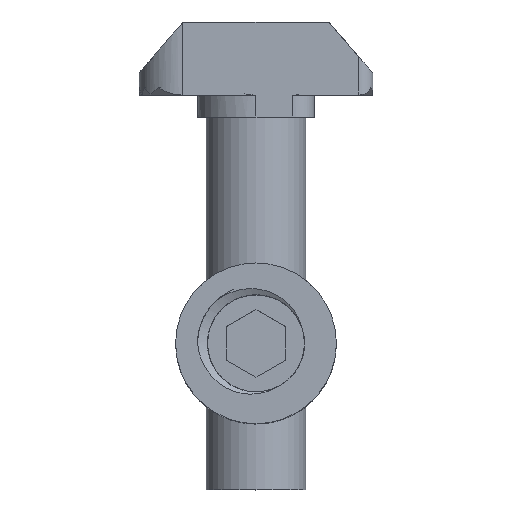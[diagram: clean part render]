
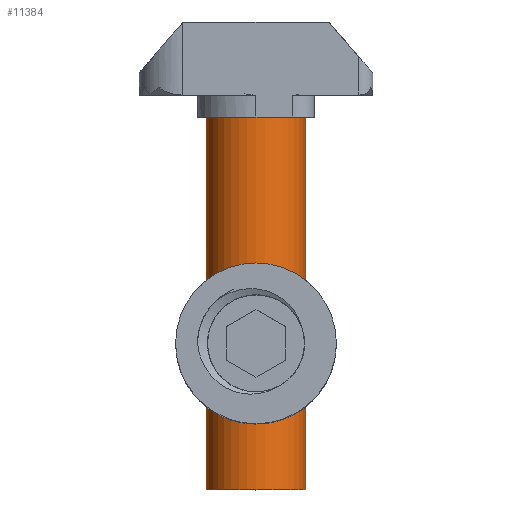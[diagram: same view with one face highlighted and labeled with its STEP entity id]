
A CAD part, top view. The second image highlights one B-rep face of the part: STEP entity #11384.
In plain terms, the highlighted cylindrical face has radius 3.4 mm (diameter 6.8 mm), a partial arc.
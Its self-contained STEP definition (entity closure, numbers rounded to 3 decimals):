
#67 = CARTESIAN_POINT ( 'NONE',  ( 3.378, 18.235, 0.39 ) ) ;
#167 = CARTESIAN_POINT ( 'NONE',  ( 3.209, 17., 1.123 ) ) ;
#195 = VERTEX_POINT ( 'NONE', #167 ) ;
#602 = VECTOR ( 'NONE', #2665, 1000. ) ;
#848 = CARTESIAN_POINT ( 'NONE',  ( 3.209, 17., 1.123 ) ) ;
#879 = CARTESIAN_POINT ( 'NONE',  ( 3.251, 17.625, 0.997 ) ) ;
#992 = CARTESIAN_POINT ( 'NONE',  ( 3.209, 17.161, 1.123 ) ) ;
#1163 = ORIENTED_EDGE ( 'NONE', *, *, #6545, .T. ) ;
#1270 = VECTOR ( 'NONE', #6412, 1000. ) ;
#1346 = CARTESIAN_POINT ( 'NONE',  ( 3.349, 15.878, 0.603 ) ) ;
#1465 = AXIS2_PLACEMENT_3D ( 'NONE', #3616, #10849, #9920 ) ;
#1648 = VERTEX_POINT ( 'NONE', #11129 ) ;
#1671 = VECTOR ( 'NONE', #11348, 1000. ) ;
#1967 = CIRCLE ( 'NONE', #4166, 3.4 ) ;
#1990 = DIRECTION ( 'NONE',  ( 0., 1., 0. ) ) ;
#2055 = ORIENTED_EDGE ( 'NONE', *, *, #8866, .T. ) ;
#2092 = CARTESIAN_POINT ( 'NONE',  ( 3.4, 15.686, 0. ) ) ;
#2261 = CARTESIAN_POINT ( 'NONE',  ( 3.274, 16.234, 0.922 ) ) ;
#2305 = CARTESIAN_POINT ( 'NONE',  ( 3.4, 0., 0. ) ) ;
#2356 = B_SPLINE_CURVE_WITH_KNOTS ( 'NONE', 3,
 ( #2092, #6701, #5813, #1346, #3893, #2261, #8390, #8518, #9397, #3027 ),
 .UNSPECIFIED., .F., .F.,
 ( 4, 2, 2, 2, 4 ),
 ( 0., 0.001, 0.001, 0.002, 0.002 ),
 .UNSPECIFIED. ) ;
#2432 = EDGE_CURVE ( 'NONE', #1648, #10004, #10855, .T. ) ;
#2563 = CARTESIAN_POINT ( 'NONE',  ( 3.4, 18.314, 0. ) ) ;
#2633 = ORIENTED_EDGE ( 'NONE', *, *, #10483, .T. ) ;
#2665 = DIRECTION ( 'NONE',  ( 0., -1., 0. ) ) ;
#2671 = EDGE_CURVE ( 'NONE', #6660, #2858, #11559, .T. ) ;
#2858 = VERTEX_POINT ( 'NONE', #2305 ) ;
#2895 = ORIENTED_EDGE ( 'NONE', *, *, #8239, .F. ) ;
#3027 = CARTESIAN_POINT ( 'NONE',  ( 3.209, 17., 1.123 ) ) ;
#3616 = CARTESIAN_POINT ( 'NONE',  ( 0., 25.5, 0. ) ) ;
#3893 = CARTESIAN_POINT ( 'NONE',  ( 3.323, 15.985, 0.725 ) ) ;
#4026 = VERTEX_POINT ( 'NONE', #10749 ) ;
#4130 = ORIENTED_EDGE ( 'NONE', *, *, #6195, .T. ) ;
#4137 = CARTESIAN_POINT ( 'NONE',  ( 3.4, 15.686, 0. ) ) ;
#4166 = AXIS2_PLACEMENT_3D ( 'NONE', #9377, #10305, #9505 ) ;
#4407 = CARTESIAN_POINT ( 'NONE',  ( 3.4, 25.5, 0. ) ) ;
#4558 = CARTESIAN_POINT ( 'NONE',  ( 3.218, 17.32, 1.098 ) ) ;
#4693 = EDGE_LOOP ( 'NONE', ( #9707, #2055, #2633, #5085, #1163, #4130, #2895 ) ) ;
#5085 = ORIENTED_EDGE ( 'NONE', *, *, #2671, .F. ) ;
#5121 = VERTEX_POINT ( 'NONE', #2563 ) ;
#5813 = CARTESIAN_POINT ( 'NONE',  ( 3.388, 15.728, 0.321 ) ) ;
#6047 = LINE ( 'NONE', #8019, #1270 ) ;
#6195 = EDGE_CURVE ( 'NONE', #195, #5121, #6833, .T. ) ;
#6412 = DIRECTION ( 'NONE',  ( 0., -1., 0. ) ) ;
#6545 = EDGE_CURVE ( 'NONE', #6660, #195, #2356, .T. ) ;
#6660 = VERTEX_POINT ( 'NONE', #4137 ) ;
#6701 = CARTESIAN_POINT ( 'NONE',  ( 3.4, 15.686, 0.161 ) ) ;
#6833 = B_SPLINE_CURVE_WITH_KNOTS ( 'NONE', 3,
 ( #848, #992, #4558, #879, #9808, #8975, #10778, #67, #8034, #7062, #11529, #7103 ),
 .UNSPECIFIED., .F., .F.,
 ( 4, 2, 2, 2, 2, 4 ),
 ( 0.002, 0.003, 0.003, 0.004, 0.004, 0.004 ),
 .UNSPECIFIED. ) ;
#6868 = CYLINDRICAL_SURFACE ( 'NONE', #1465, 3.4 ) ;
#7012 = AXIS2_PLACEMENT_3D ( 'NONE', #8367, #1990, #8406 ) ;
#7062 = CARTESIAN_POINT ( 'NONE',  ( 3.397, 18.304, 0.162 ) ) ;
#7103 = CARTESIAN_POINT ( 'NONE',  ( 3.4, 18.314, 0. ) ) ;
#8019 = CARTESIAN_POINT ( 'NONE',  ( -3.4, 25.5, 0. ) ) ;
#8034 = CARTESIAN_POINT ( 'NONE',  ( 3.386, 18.264, 0.316 ) ) ;
#8239 = EDGE_CURVE ( 'NONE', #10004, #5121, #8857, .T. ) ;
#8367 = CARTESIAN_POINT ( 'NONE',  ( 0., 25.5, 0. ) ) ;
#8390 = CARTESIAN_POINT ( 'NONE',  ( 3.251, 16.376, 0.997 ) ) ;
#8406 = DIRECTION ( 'NONE',  ( -1., 0., 0. ) ) ;
#8518 = CARTESIAN_POINT ( 'NONE',  ( 3.218, 16.68, 1.098 ) ) ;
#8857 = LINE ( 'NONE', #4407, #602 ) ;
#8866 = EDGE_CURVE ( 'NONE', #1648, #4026, #6047, .T. ) ;
#8975 = CARTESIAN_POINT ( 'NONE',  ( 3.323, 18.016, 0.724 ) ) ;
#9377 = CARTESIAN_POINT ( 'NONE',  ( 0., 0., 0. ) ) ;
#9397 = CARTESIAN_POINT ( 'NONE',  ( 3.209, 16.839, 1.123 ) ) ;
#9505 = DIRECTION ( 'NONE',  ( -1., 0., 0. ) ) ;
#9524 = FACE_OUTER_BOUND ( 'NONE', #4693, .T. ) ;
#9707 = ORIENTED_EDGE ( 'NONE', *, *, #2432, .F. ) ;
#9808 = CARTESIAN_POINT ( 'NONE',  ( 3.274, 17.766, 0.922 ) ) ;
#9920 = DIRECTION ( 'NONE',  ( 1., 0., 0. ) ) ;
#10004 = VERTEX_POINT ( 'NONE', #10082 ) ;
#10082 = CARTESIAN_POINT ( 'NONE',  ( 3.4, 25.5, 0. ) ) ;
#10305 = DIRECTION ( 'NONE',  ( 0., 1., 0. ) ) ;
#10455 = CARTESIAN_POINT ( 'NONE',  ( 3.4, 25.5, 0. ) ) ;
#10483 = EDGE_CURVE ( 'NONE', #4026, #2858, #1967, .T. ) ;
#10749 = CARTESIAN_POINT ( 'NONE',  ( -3.4, 0., 0. ) ) ;
#10778 = CARTESIAN_POINT ( 'NONE',  ( 3.349, 18.122, 0.602 ) ) ;
#10849 = DIRECTION ( 'NONE',  ( 0., -1., 0. ) ) ;
#10855 = CIRCLE ( 'NONE', #7012, 3.4 ) ;
#11129 = CARTESIAN_POINT ( 'NONE',  ( -3.4, 25.5, 0. ) ) ;
#11348 = DIRECTION ( 'NONE',  ( 0., -1., 0. ) ) ;
#11384 = ADVANCED_FACE ( 'NONE', ( #9524 ), #6868, .T. ) ;
#11529 = CARTESIAN_POINT ( 'NONE',  ( 3.4, 18.314, 0.08 ) ) ;
#11559 = LINE ( 'NONE', #10455, #1671 ) ;
